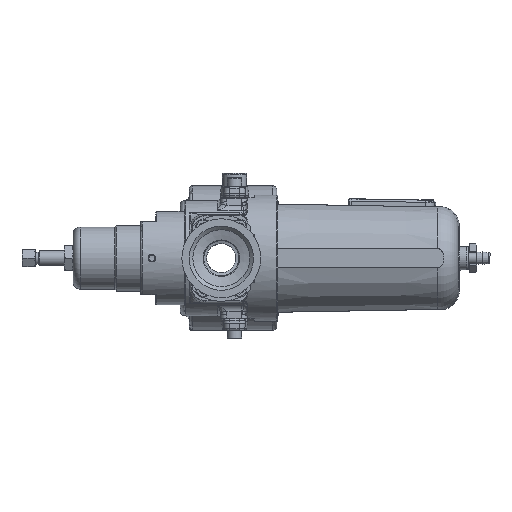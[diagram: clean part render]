
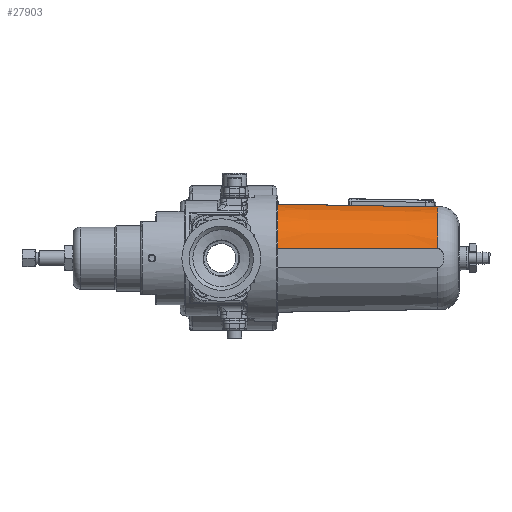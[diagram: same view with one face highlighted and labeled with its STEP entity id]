
A CAD part, left-side view. The second image highlights one B-rep face of the part: STEP entity #27903.
In plain terms, the highlighted conical face has half-angle 1 degrees and reference radius 36.638 mm.
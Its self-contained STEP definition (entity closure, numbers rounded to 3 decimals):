
#388=(
BOUNDED_CURVE()
B_SPLINE_CURVE(2,(#57543,#57544,#57545),.UNSPECIFIED.,.F.,.F.)
B_SPLINE_CURVE_WITH_KNOTS((3,3),(0.,11.026),.UNSPECIFIED.)
CURVE()
GEOMETRIC_REPRESENTATION_ITEM()
RATIONAL_B_SPLINE_CURVE((1.,1.,1.))
REPRESENTATION_ITEM('')
);
#389=(
BOUNDED_CURVE()
B_SPLINE_CURVE(2,(#57550,#57551,#57552),.UNSPECIFIED.,.F.,.F.)
B_SPLINE_CURVE_WITH_KNOTS((3,3),(0.,11.026),.UNSPECIFIED.)
CURVE()
GEOMETRIC_REPRESENTATION_ITEM()
RATIONAL_B_SPLINE_CURVE((1.,1.,1.))
REPRESENTATION_ITEM('')
);
#871=CONICAL_SURFACE('',#31651,36.638,0.017);
#2836=CIRCLE('',#31643,37.6);
#2842=CIRCLE('',#31652,35.676);
#8685=FACE_OUTER_BOUND('',#10511,.T.);
#10511=EDGE_LOOP('',(#25266,#25267,#25268,#25269));
#13628=VERTEX_POINT('',#57514);
#13629=VERTEX_POINT('',#57542);
#13630=VERTEX_POINT('',#57548);
#13631=VERTEX_POINT('',#57549);
#17533=EDGE_CURVE('',#13629,#13628,#388,.T.);
#17535=EDGE_CURVE('',#13630,#13631,#389,.T.);
#17549=EDGE_CURVE('',#13629,#13631,#2836,.T.);
#17555=EDGE_CURVE('',#13628,#13630,#2842,.T.);
#25266=ORIENTED_EDGE('',*,*,#17533,.T.);
#25267=ORIENTED_EDGE('',*,*,#17555,.T.);
#25268=ORIENTED_EDGE('',*,*,#17535,.T.);
#25269=ORIENTED_EDGE('',*,*,#17549,.F.);
#27903=ADVANCED_FACE('',(#8685),#871,.T.);
#31643=AXIS2_PLACEMENT_3D('',#57669,#39115,#39116);
#31651=AXIS2_PLACEMENT_3D('',#57677,#39131,#39132);
#31652=AXIS2_PLACEMENT_3D('',#57678,#39133,#39134);
#39115=DIRECTION('center_axis',(0.,1.,0.));
#39116=DIRECTION('ref_axis',(-1.,0.,0.));
#39131=DIRECTION('center_axis',(0.,1.,0.));
#39132=DIRECTION('ref_axis',(-1.,0.,0.));
#39133=DIRECTION('center_axis',(0.,1.,0.));
#39134=DIRECTION('ref_axis',(-1.,0.,0.));
#57514=CARTESIAN_POINT('',(6.515,20.756,35.076));
#57542=CARTESIAN_POINT('',(6.69,131.,37.));
#57543=CARTESIAN_POINT('Ctrl Pts',(6.69,131.,37.));
#57544=CARTESIAN_POINT('Ctrl Pts',(6.603,75.148,36.025));
#57545=CARTESIAN_POINT('Ctrl Pts',(6.515,20.756,35.076));
#57548=CARTESIAN_POINT('',(35.076,20.756,6.515));
#57549=CARTESIAN_POINT('',(37.,131.,6.69));
#57550=CARTESIAN_POINT('Ctrl Pts',(35.076,20.756,6.515));
#57551=CARTESIAN_POINT('Ctrl Pts',(36.025,75.148,6.603));
#57552=CARTESIAN_POINT('Ctrl Pts',(37.,131.,6.69));
#57669=CARTESIAN_POINT('Origin',(0.,131.,0.));
#57677=CARTESIAN_POINT('Origin',(0.,75.878,0.));
#57678=CARTESIAN_POINT('Origin',(0.,20.756,0.));
